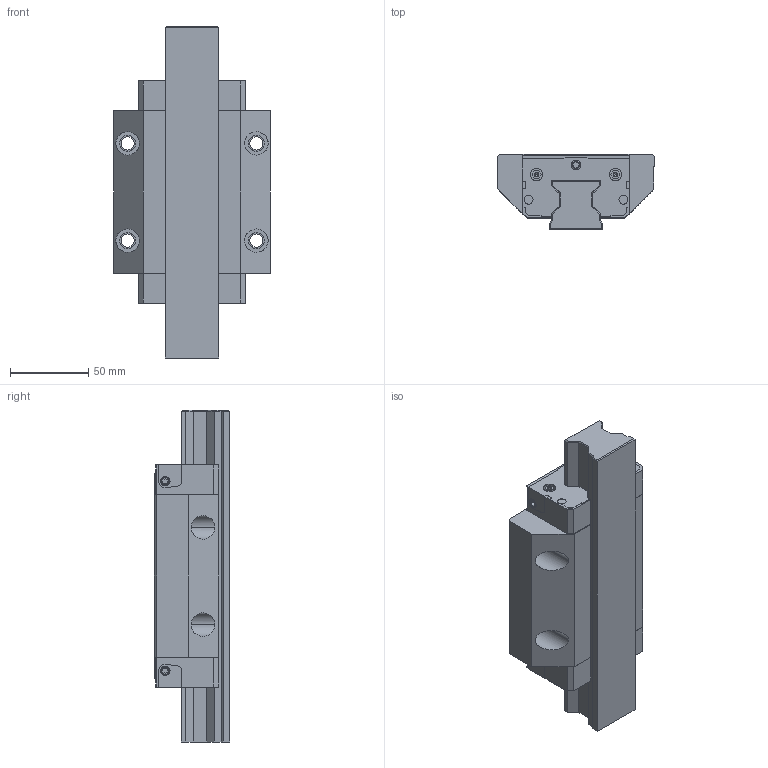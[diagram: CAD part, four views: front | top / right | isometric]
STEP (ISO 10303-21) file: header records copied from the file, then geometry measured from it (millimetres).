
FILE_DESCRIPTION((''),'2;1');
FILE_NAME('R1853_SIZE35_ASM','2021-07-06T07:49:30',('ac91sw'),(''),'CREO PARAMETRIC BY PTC INC, 2020044','CREO PARAMETRIC BY PTC INC, 2020044','');
FILE_SCHEMA(('AUTOMOTIVE_DESIGN { 1 0 10303 214 1 1 1 1 }'));
Length unit declared in the file: millimetre
Products named in the file (6): R1853_SIZE35_SKEL; R185332501; R185130702_Z; R913034226_Z; R1853_SIZE35_PSF; R1853_SIZE35_ASM
Assembly tree (11 placements, depth 2):
  R1853_SIZE35_ASM
    R1853_SIZE35_SKEL
    R185332501
    R185130702_Z  x2
    R913034226_Z  x6
    R1853_SIZE35_PSF
Bounding box: 100 x 47.98 x 211.6 mm (x, y, z)
Volume: 514125.4 mm3; surface area: 110453.5 mm2
Topology: 10 solids, 26 shells, 526 faces, 1342 edges, 862 vertices
Faces by surface type: plane 332, cylinder 138, cone 56
Entity records: 15256 total; most frequent: CARTESIAN_POINT 1919, DIRECTION 1572, ORIENTED_EDGE 1492, EDGE_CURVE 764, PROPERTY_DEFINITION 699, REPRESENTATION 692, PROPERTY_DEFINITION_REPRESENTATION 692, DESCRIPTIVE_REPRESENTATION_ITEM 643
